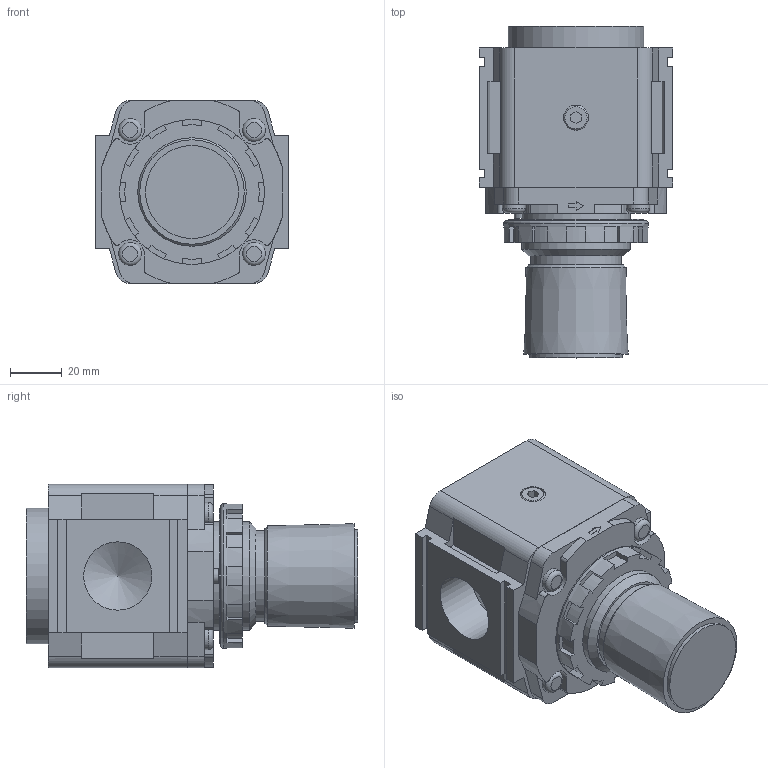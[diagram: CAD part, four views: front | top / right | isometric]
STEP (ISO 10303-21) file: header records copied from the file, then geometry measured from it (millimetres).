
FILE_DESCRIPTION(/* description */ ('STEP AP203'),/* implementation_level */ '2;1');
FILE_NAME(/* name */ 'AR40-06H-D(1)',/* time_stamp */ '2026-03-25T01:56:04+01:00',/* author */ ('License CC BY-ND 4.0'),/* organization */ ('CADENAS'),/* preprocessor_version */ 'ST-DEVELOPER v20',/* originating_system */ 'PARTsolutions',/* authorisation */ ' ');
FILE_SCHEMA (('CONFIG_CONTROL_DESIGN'));
Length unit declared in the file: millimetre
Products named in the file (5): AR40-06H-D(1); AR40-06H-D(1)_BODY; AR40-D_BOWL; AR43P-260S_SETNUT; 1/8
Assembly tree (5 placements, depth 2):
  AR40-06H-D(1)
    AR40-06H-D(1)_BODY
    AR40-D_BOWL
    AR43P-260S_SETNUT
    1/8  x2
Bounding box: 75 x 128.5 x 71 mm (x, y, z)
Volume: 377344 mm3; surface area: 56587.4 mm2
Topology: 5 solids, 5 shells, 282 faces, 743 edges, 492 vertices
Faces by surface type: plane 196, cylinder 68, cone 13, torus 5
Full cylindrical faces by diameter (mm): 9 x4, 9.728 x4, 26.441 x2, 35 x1, 36 x1, 40.376 x1, 42 x1, 47 x1, 48 x1, 52 x1, 52.4 x1, 56 x1
Entity records: 8211 total; most frequent: CARTESIAN_POINT 1412, DIRECTION 1406, ORIENTED_EDGE 1340, EDGE_CURVE 670, LINE 486, VECTOR 486, VERTEX_POINT 466, AXIS2_PLACEMENT_3D 460
